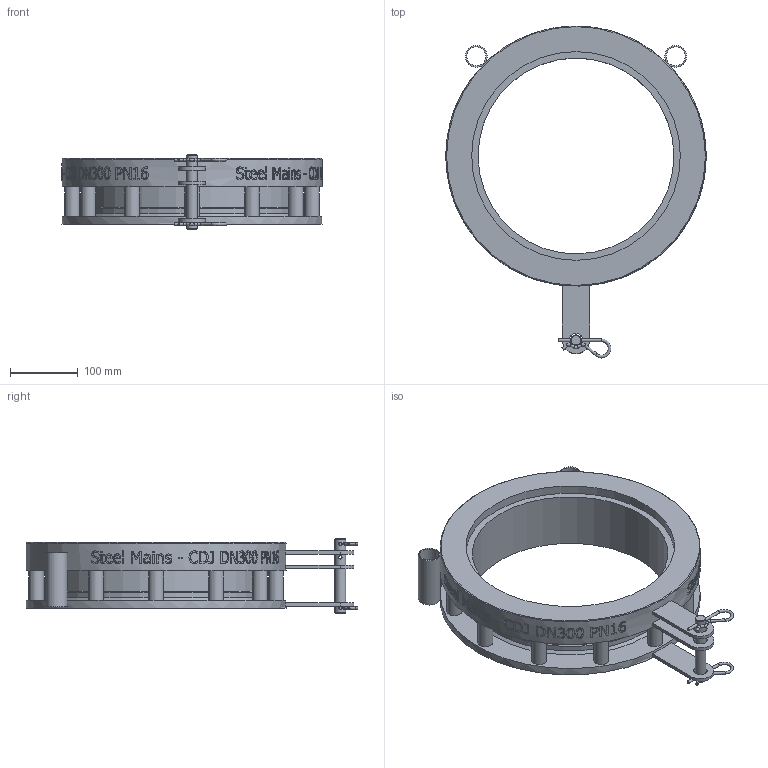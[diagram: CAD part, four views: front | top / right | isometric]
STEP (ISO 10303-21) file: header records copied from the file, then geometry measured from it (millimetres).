
FILE_DESCRIPTION(/* description */ (''),/* implementation_level */ '2;1');
FILE_NAME(/* name */ 'C:\Vault\Designs\Somerton\196\196-10 Models\Marketing Files\SteelMains - CDJ DN300 PN16 - (196-10T rev E).stp',/* time_stamp */ '2025-08-22T15:36:59+10:00',/* author */ ('Sam.Cavallaro'),/* organization */ (''),/* preprocessor_version */ 'ST-DEVELOPER v18.1',/* originating_system */ 'Autodesk Inventor 2021',/* authorisation */ '');
FILE_SCHEMA (('AUTOMOTIVE_DESIGN { 1 0 10303 214 3 1 1 }'));
Length unit declared in the file: millimetre
Products named in the file (1): SPS_ENG-061036
Bounding box: 384 x 490.01 x 111 mm (x, y, z)
Volume: 3165199.1 mm3; surface area: 473701.4 mm2
Topology: 6 solids, 6 shells, 828 faces, 2246 edges, 1498 vertices
Faces by surface type: bspline 402, plane 303, cylinder 110, torus 8, cone 5
Full cylindrical faces by diameter (mm): 4 x10, 5 x3, 16 x1, 20 x3, 22 x12, 28 x2, 32 x2, 289 x1, 302 x1, 305 x1, 308 x1, 384 x1
Entity records: 36662 total; most frequent: CARTESIAN_POINT 17880, ORIENTED_EDGE 4498, DIRECTION 2666, EDGE_CURVE 2249, VERTEX_POINT 1501, LINE 1034, VECTOR 1034, EDGE_LOOP 938
